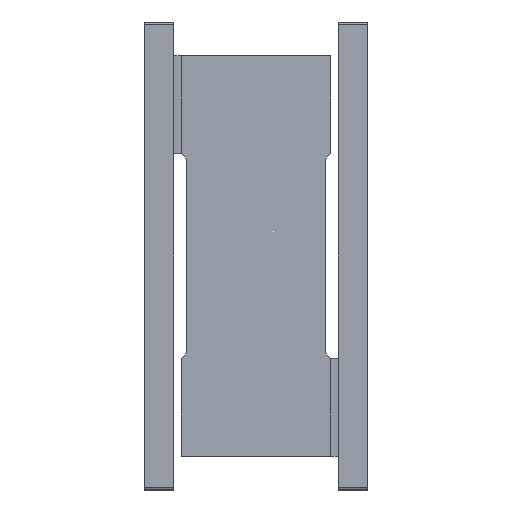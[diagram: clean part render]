
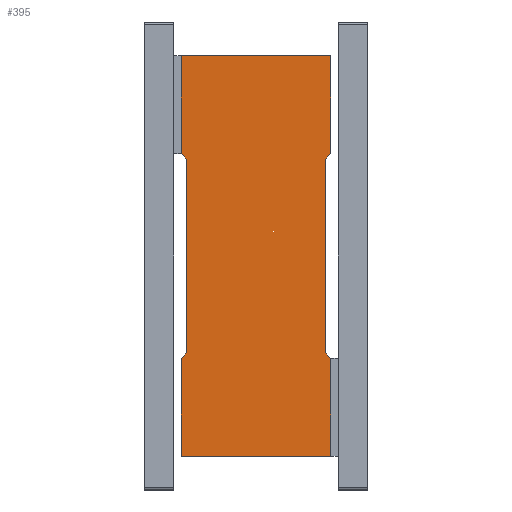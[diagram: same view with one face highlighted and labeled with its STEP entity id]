
A CAD part, left-side view. The second image highlights one B-rep face of the part: STEP entity #395.
In plain terms, the highlighted planar face has unit normal (-1, 0, 0).
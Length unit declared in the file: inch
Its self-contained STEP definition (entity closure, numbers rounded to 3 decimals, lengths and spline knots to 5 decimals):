
#16 = CARTESIAN_POINT ( 'NONE',  ( -1.1811, 0.09843, -1.77165 ) ) ;
#17 = DIRECTION ( 'NONE',  ( 0., 0., -1. ) ) ;
#45 = CARTESIAN_POINT ( 'NONE',  ( -1.1811, 0., -5.17717 ) ) ;
#80 = CARTESIAN_POINT ( 'NONE',  ( -1.1811, 2.55906, -5.17717 ) ) ;
#92 = DIRECTION ( 'NONE',  ( 0., -0.707, 0.707 ) ) ;
#168 = EDGE_CURVE ( 'NONE', #2410, #3275, #2828, .T. ) ;
#206 = VECTOR ( 'NONE', #3013, 39.37008 ) ;
#221 = PLANE ( 'NONE',  #722 ) ;
#246 = VECTOR ( 'NONE', #2182, 39.37008 ) ;
#275 = EDGE_CURVE ( 'NONE', #3275, #2104, #2967, .T. ) ;
#287 = CARTESIAN_POINT ( 'NONE',  ( -1.1811, 2.55906, -6.85039 ) ) ;
#318 = VECTOR ( 'NONE', #2768, 39.37008 ) ;
#342 = CARTESIAN_POINT ( 'NONE',  ( -1.1811, 2.55906, -5.17717 ) ) ;
#368 = DIRECTION ( 'NONE',  ( 0., 0., 1. ) ) ;
#395 = ADVANCED_FACE ( 'NONE', ( #1031 ), #221, .T. ) ;
#434 = EDGE_CURVE ( 'NONE', #2104, #1553, #2716, .T. ) ;
#543 = LINE ( 'NONE', #45, #1661 ) ;
#561 = ORIENTED_EDGE ( 'NONE', *, *, #434, .F. ) ;
#635 = VECTOR ( 'NONE', #368, 39.37008 ) ;
#638 = EDGE_CURVE ( 'NONE', #2080, #3261, #712, .T. ) ;
#641 = EDGE_CURVE ( 'NONE', #1676, #3208, #1065, .T. ) ;
#687 = CARTESIAN_POINT ( 'NONE',  ( -1.1811, 2.55906, 0. ) ) ;
#707 = LINE ( 'NONE', #1858, #2134 ) ;
#712 = LINE ( 'NONE', #1867, #3001 ) ;
#722 = AXIS2_PLACEMENT_3D ( 'NONE', #1478, #2510, #2285 ) ;
#744 = LINE ( 'NONE', #342, #635 ) ;
#802 = EDGE_CURVE ( 'NONE', #1553, #1998, #2399, .T. ) ;
#830 = CARTESIAN_POINT ( 'NONE',  ( -1.1811, 0., -6.85039 ) ) ;
#836 = CARTESIAN_POINT ( 'NONE',  ( -1.1811, 0.09843, -5.07874 ) ) ;
#850 = ORIENTED_EDGE ( 'NONE', *, *, #1658, .F. ) ;
#913 = CARTESIAN_POINT ( 'NONE',  ( -1.1811, 0.09843, -1.77165 ) ) ;
#955 = VECTOR ( 'NONE', #92, 39.37008 ) ;
#1004 = CARTESIAN_POINT ( 'NONE',  ( -1.1811, 0., -1.67323 ) ) ;
#1013 = VECTOR ( 'NONE', #2385, 39.37008 ) ;
#1031 = FACE_OUTER_BOUND ( 'NONE', #2941, .T. ) ;
#1060 = CARTESIAN_POINT ( 'NONE',  ( -1.1811, 2.55906, 0. ) ) ;
#1065 = LINE ( 'NONE', #2085, #955 ) ;
#1108 = DIRECTION ( 'NONE',  ( 0., -0.707, -0.707 ) ) ;
#1114 = ORIENTED_EDGE ( 'NONE', *, *, #275, .F. ) ;
#1237 = CARTESIAN_POINT ( 'NONE',  ( -1.1811, 0., -1.67323 ) ) ;
#1285 = LINE ( 'NONE', #16, #318 ) ;
#1326 = DIRECTION ( 'NONE',  ( 0., 1., 0. ) ) ;
#1343 = VECTOR ( 'NONE', #17, 39.37008 ) ;
#1349 = VECTOR ( 'NONE', #2304, 39.37008 ) ;
#1451 = VECTOR ( 'NONE', #3060, 39.37008 ) ;
#1478 = CARTESIAN_POINT ( 'NONE',  ( -1.1811, 2.55906, 0. ) ) ;
#1538 = CARTESIAN_POINT ( 'NONE',  ( -1.1811, 0., 0. ) ) ;
#1541 = CARTESIAN_POINT ( 'NONE',  ( -1.1811, 2.55906, -1.67323 ) ) ;
#1553 = VERTEX_POINT ( 'NONE', #2740 ) ;
#1599 = ORIENTED_EDGE ( 'NONE', *, *, #2761, .F. ) ;
#1658 = EDGE_CURVE ( 'NONE', #2857, #2157, #707, .T. ) ;
#1661 = VECTOR ( 'NONE', #3120, 39.37008 ) ;
#1662 = EDGE_CURVE ( 'NONE', #3261, #1676, #744, .T. ) ;
#1676 = VERTEX_POINT ( 'NONE', #80 ) ;
#1699 = ORIENTED_EDGE ( 'NONE', *, *, #802, .F. ) ;
#1835 = CARTESIAN_POINT ( 'NONE',  ( -1.1811, 0., -5.17717 ) ) ;
#1845 = ORIENTED_EDGE ( 'NONE', *, *, #641, .F. ) ;
#1858 = CARTESIAN_POINT ( 'NONE',  ( -1.1811, 0., -5.17717 ) ) ;
#1863 = EDGE_CURVE ( 'NONE', #2313, #2857, #1285, .T. ) ;
#1867 = CARTESIAN_POINT ( 'NONE',  ( -1.1811, 0., -6.85039 ) ) ;
#1896 = LINE ( 'NONE', #1237, #1451 ) ;
#1987 = EDGE_CURVE ( 'NONE', #1998, #2313, #1896, .T. ) ;
#1998 = VERTEX_POINT ( 'NONE', #1004 ) ;
#2080 = VERTEX_POINT ( 'NONE', #830 ) ;
#2085 = CARTESIAN_POINT ( 'NONE',  ( -1.1811, 2.55906, -5.17717 ) ) ;
#2104 = VERTEX_POINT ( 'NONE', #1060 ) ;
#2134 = VECTOR ( 'NONE', #1108, 39.37008 ) ;
#2157 = VERTEX_POINT ( 'NONE', #1835 ) ;
#2163 = ORIENTED_EDGE ( 'NONE', *, *, #168, .F. ) ;
#2172 = CARTESIAN_POINT ( 'NONE',  ( -1.1811, 2.46063, -1.77165 ) ) ;
#2182 = DIRECTION ( 'NONE',  ( 0., 0.707, 0.707 ) ) ;
#2285 = DIRECTION ( 'NONE',  ( 0., 0., 1. ) ) ;
#2295 = CARTESIAN_POINT ( 'NONE',  ( -1.1811, 0., 0. ) ) ;
#2304 = DIRECTION ( 'NONE',  ( 0., -1., 0. ) ) ;
#2313 = VERTEX_POINT ( 'NONE', #913 ) ;
#2335 = LINE ( 'NONE', #3109, #1013 ) ;
#2385 = DIRECTION ( 'NONE',  ( 0., 0., 1. ) ) ;
#2399 = LINE ( 'NONE', #1538, #1343 ) ;
#2410 = VERTEX_POINT ( 'NONE', #2172 ) ;
#2510 = DIRECTION ( 'NONE',  ( -1., 0., 0. ) ) ;
#2598 = ORIENTED_EDGE ( 'NONE', *, *, #2850, .F. ) ;
#2625 = ORIENTED_EDGE ( 'NONE', *, *, #638, .F. ) ;
#2697 = ORIENTED_EDGE ( 'NONE', *, *, #1863, .F. ) ;
#2716 = LINE ( 'NONE', #2295, #1349 ) ;
#2740 = CARTESIAN_POINT ( 'NONE',  ( -1.1811, 0., 0. ) ) ;
#2761 = EDGE_CURVE ( 'NONE', #3208, #2410, #2335, .T. ) ;
#2768 = DIRECTION ( 'NONE',  ( 0., 0., -1. ) ) ;
#2827 = CARTESIAN_POINT ( 'NONE',  ( -1.1811, 2.46063, -5.07874 ) ) ;
#2828 = LINE ( 'NONE', #2987, #246 ) ;
#2850 = EDGE_CURVE ( 'NONE', #2157, #2080, #543, .T. ) ;
#2857 = VERTEX_POINT ( 'NONE', #836 ) ;
#2941 = EDGE_LOOP ( 'NONE', ( #561, #1114, #2163, #1599, #1845, #2968, #2625, #2598, #850, #2697, #3260, #1699 ) ) ;
#2967 = LINE ( 'NONE', #687, #206 ) ;
#2968 = ORIENTED_EDGE ( 'NONE', *, *, #1662, .F. ) ;
#2987 = CARTESIAN_POINT ( 'NONE',  ( -1.1811, 2.55906, -1.67323 ) ) ;
#3001 = VECTOR ( 'NONE', #1326, 39.37008 ) ;
#3013 = DIRECTION ( 'NONE',  ( 0., 0., 1. ) ) ;
#3060 = DIRECTION ( 'NONE',  ( 0., 0.707, -0.707 ) ) ;
#3109 = CARTESIAN_POINT ( 'NONE',  ( -1.1811, 2.46063, -1.77165 ) ) ;
#3120 = DIRECTION ( 'NONE',  ( 0., 0., -1. ) ) ;
#3208 = VERTEX_POINT ( 'NONE', #2827 ) ;
#3260 = ORIENTED_EDGE ( 'NONE', *, *, #1987, .F. ) ;
#3261 = VERTEX_POINT ( 'NONE', #287 ) ;
#3275 = VERTEX_POINT ( 'NONE', #1541 ) ;
